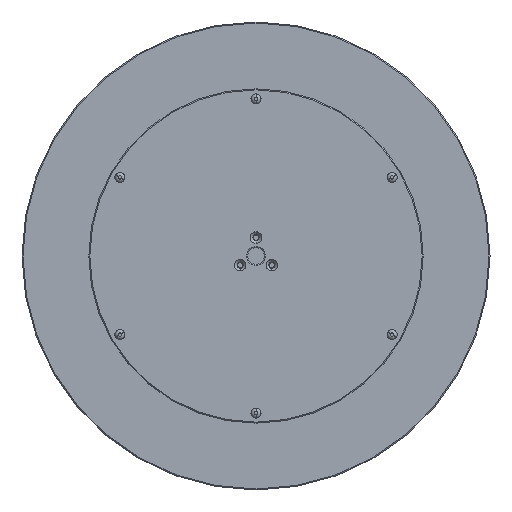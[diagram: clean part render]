
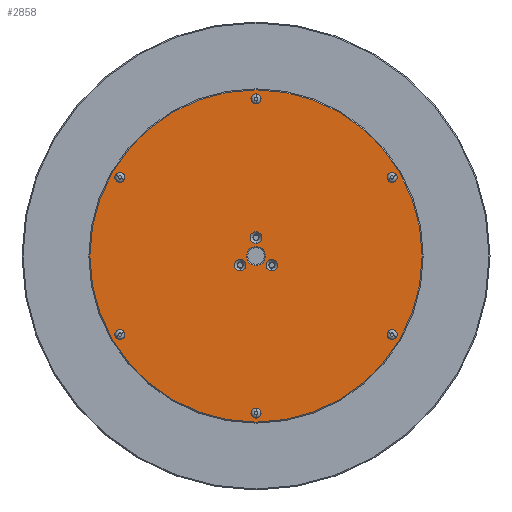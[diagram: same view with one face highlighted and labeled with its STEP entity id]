
A CAD part, front view. The second image highlights one B-rep face of the part: STEP entity #2858.
In plain terms, the highlighted planar face has unit normal (0, -1, 0).
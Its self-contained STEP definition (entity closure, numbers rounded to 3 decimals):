
#133 = CARTESIAN_POINT ( 'NONE',  ( 23.816, 0., -13.75 ) ) ;
#207 = VERTEX_POINT ( 'NONE', #4088 ) ;
#225 = CARTESIAN_POINT ( 'NONE',  ( 0., 0., 36.15 ) ) ;
#228 = AXIS2_PLACEMENT_3D ( 'NONE', #133, #488, #3286 ) ;
#395 = DIRECTION ( 'NONE',  ( 0., 0., -1. ) ) ;
#456 = CIRCLE ( 'NONE', #3987, 248.5 ) ;
#488 = DIRECTION ( 'NONE',  ( 0., -1., 0. ) ) ;
#650 = DIRECTION ( 'NONE',  ( 0., -1., 0. ) ) ;
#662 = DIRECTION ( 'NONE',  ( 0., -1., 0. ) ) ;
#695 = DIRECTION ( 'NONE',  ( 0., 0., 1. ) ) ;
#740 = CARTESIAN_POINT ( 'NONE',  ( -23.816, 0., -13.75 ) ) ;
#768 = CARTESIAN_POINT ( 'NONE',  ( -23.816, 0., -5.1 ) ) ;
#848 = VERTEX_POINT ( 'NONE', #225 ) ;
#902 = EDGE_LOOP ( 'NONE', ( #3353, #4275 ) ) ;
#927 = AXIS2_PLACEMENT_3D ( 'NONE', #4250, #2924, #695 ) ;
#949 = EDGE_CURVE ( 'NONE', #3401, #1594, #1953, .T. ) ;
#955 = EDGE_CURVE ( 'NONE', #207, #4053, #1814, .T. ) ;
#1060 = AXIS2_PLACEMENT_3D ( 'NONE', #4482, #2798, #2728 ) ;
#1089 = DIRECTION ( 'NONE',  ( 0., 0., 1. ) ) ;
#1116 = EDGE_LOOP ( 'NONE', ( #2542, #1323 ) ) ;
#1119 = CIRCLE ( 'NONE', #3183, 248.5 ) ;
#1144 = EDGE_CURVE ( 'NONE', #848, #1407, #1501, .T. ) ;
#1190 = PLANE ( 'NONE',  #2301 ) ;
#1214 = FACE_BOUND ( 'NONE', #902, .T. ) ;
#1219 = AXIS2_PLACEMENT_3D ( 'NONE', #740, #3998, #395 ) ;
#1260 = ORIENTED_EDGE ( 'NONE', *, *, #2724, .T. ) ;
#1323 = ORIENTED_EDGE ( 'NONE', *, *, #1144, .F. ) ;
#1347 = CIRCLE ( 'NONE', #1861, 8.65 ) ;
#1407 = VERTEX_POINT ( 'NONE', #2408 ) ;
#1475 = ORIENTED_EDGE ( 'NONE', *, *, #1883, .T. ) ;
#1501 = CIRCLE ( 'NONE', #1060, 8.65 ) ;
#1565 = CARTESIAN_POINT ( 'NONE',  ( 0., 0., -14. ) ) ;
#1594 = VERTEX_POINT ( 'NONE', #768 ) ;
#1600 = ORIENTED_EDGE ( 'NONE', *, *, #4076, .F. ) ;
#1625 = ORIENTED_EDGE ( 'NONE', *, *, #1832, .T. ) ;
#1707 = CARTESIAN_POINT ( 'NONE',  ( 0., 0., 248.5 ) ) ;
#1717 = CARTESIAN_POINT ( 'NONE',  ( 23.816, 0., -5.1 ) ) ;
#1731 = DIRECTION ( 'NONE',  ( 0., 0., -1. ) ) ;
#1814 = CIRCLE ( 'NONE', #927, 14. ) ;
#1822 = CARTESIAN_POINT ( 'NONE',  ( 0., 0., -248.5 ) ) ;
#1832 = EDGE_CURVE ( 'NONE', #4053, #207, #3569, .T. ) ;
#1861 = AXIS2_PLACEMENT_3D ( 'NONE', #2745, #650, #4158 ) ;
#1883 = EDGE_CURVE ( 'NONE', #4010, #3824, #1119, .T. ) ;
#1928 = DIRECTION ( 'NONE',  ( 0., -1., 0. ) ) ;
#1953 = CIRCLE ( 'NONE', #1219, 8.65 ) ;
#2030 = CARTESIAN_POINT ( 'NONE',  ( 0., 0., 0. ) ) ;
#2087 = CIRCLE ( 'NONE', #2306, 8.65 ) ;
#2100 = DIRECTION ( 'NONE',  ( 0., 0., 1. ) ) ;
#2153 = CIRCLE ( 'NONE', #228, 8.65 ) ;
#2156 = EDGE_LOOP ( 'NONE', ( #3545, #1600 ) ) ;
#2187 = DIRECTION ( 'NONE',  ( 0., 1., 0. ) ) ;
#2205 = DIRECTION ( 'NONE',  ( 0., 0., -1. ) ) ;
#2207 = VERTEX_POINT ( 'NONE', #2973 ) ;
#2301 = AXIS2_PLACEMENT_3D ( 'NONE', #2621, #2187, #4329 ) ;
#2306 = AXIS2_PLACEMENT_3D ( 'NONE', #2622, #1928, #2205 ) ;
#2354 = EDGE_CURVE ( 'NONE', #3527, #2207, #3850, .T. ) ;
#2408 = CARTESIAN_POINT ( 'NONE',  ( 0., 0., 18.85 ) ) ;
#2423 = CARTESIAN_POINT ( 'NONE',  ( 0., 0., 0. ) ) ;
#2465 = CARTESIAN_POINT ( 'NONE',  ( 23.816, 0., -13.75 ) ) ;
#2533 = FACE_OUTER_BOUND ( 'NONE', #3513, .T. ) ;
#2542 = ORIENTED_EDGE ( 'NONE', *, *, #3517, .F. ) ;
#2621 = CARTESIAN_POINT ( 'NONE',  ( 0., 0., 0. ) ) ;
#2622 = CARTESIAN_POINT ( 'NONE',  ( -23.816, 0., -13.75 ) ) ;
#2724 = EDGE_CURVE ( 'NONE', #3824, #4010, #456, .T. ) ;
#2728 = DIRECTION ( 'NONE',  ( 0., 0., -1. ) ) ;
#2745 = CARTESIAN_POINT ( 'NONE',  ( 0., 0., 27.5 ) ) ;
#2756 = AXIS2_PLACEMENT_3D ( 'NONE', #2423, #4225, #3441 ) ;
#2792 = CARTESIAN_POINT ( 'NONE',  ( -23.816, 0., -22.4 ) ) ;
#2798 = DIRECTION ( 'NONE',  ( 0., -1., 0. ) ) ;
#2858 = ADVANCED_FACE ( 'NONE', ( #2925, #2969, #4376, #1214, #2533 ), #1190, .F. ) ;
#2924 = DIRECTION ( 'NONE',  ( 0., 1., 0. ) ) ;
#2925 = FACE_BOUND ( 'NONE', #3766, .T. ) ;
#2960 = AXIS2_PLACEMENT_3D ( 'NONE', #2465, #3800, #1731 ) ;
#2969 = FACE_BOUND ( 'NONE', #1116, .T. ) ;
#2973 = CARTESIAN_POINT ( 'NONE',  ( 23.816, 0., -22.4 ) ) ;
#3093 = DIRECTION ( 'NONE',  ( 0., -1., 0. ) ) ;
#3183 = AXIS2_PLACEMENT_3D ( 'NONE', #2030, #3093, #2100 ) ;
#3225 = EDGE_CURVE ( 'NONE', #2207, #3527, #2153, .T. ) ;
#3286 = DIRECTION ( 'NONE',  ( 0., 0., -1. ) ) ;
#3353 = ORIENTED_EDGE ( 'NONE', *, *, #3225, .F. ) ;
#3401 = VERTEX_POINT ( 'NONE', #2792 ) ;
#3441 = DIRECTION ( 'NONE',  ( 0., 0., 1. ) ) ;
#3513 = EDGE_LOOP ( 'NONE', ( #1260, #1475 ) ) ;
#3517 = EDGE_CURVE ( 'NONE', #1407, #848, #1347, .T. ) ;
#3527 = VERTEX_POINT ( 'NONE', #1717 ) ;
#3545 = ORIENTED_EDGE ( 'NONE', *, *, #949, .F. ) ;
#3569 = CIRCLE ( 'NONE', #2756, 14. ) ;
#3766 = EDGE_LOOP ( 'NONE', ( #1625, #4114 ) ) ;
#3800 = DIRECTION ( 'NONE',  ( 0., -1., 0. ) ) ;
#3824 = VERTEX_POINT ( 'NONE', #1707 ) ;
#3850 = CIRCLE ( 'NONE', #2960, 8.65 ) ;
#3987 = AXIS2_PLACEMENT_3D ( 'NONE', #4246, #662, #1089 ) ;
#3998 = DIRECTION ( 'NONE',  ( 0., -1., 0. ) ) ;
#4010 = VERTEX_POINT ( 'NONE', #1822 ) ;
#4053 = VERTEX_POINT ( 'NONE', #1565 ) ;
#4076 = EDGE_CURVE ( 'NONE', #1594, #3401, #2087, .T. ) ;
#4088 = CARTESIAN_POINT ( 'NONE',  ( 0., 0., 14. ) ) ;
#4114 = ORIENTED_EDGE ( 'NONE', *, *, #955, .T. ) ;
#4158 = DIRECTION ( 'NONE',  ( 0., 0., -1. ) ) ;
#4225 = DIRECTION ( 'NONE',  ( 0., 1., 0. ) ) ;
#4246 = CARTESIAN_POINT ( 'NONE',  ( 0., 0., 0. ) ) ;
#4250 = CARTESIAN_POINT ( 'NONE',  ( 0., 0., 0. ) ) ;
#4275 = ORIENTED_EDGE ( 'NONE', *, *, #2354, .F. ) ;
#4329 = DIRECTION ( 'NONE',  ( 0., 0., 1. ) ) ;
#4376 = FACE_BOUND ( 'NONE', #2156, .T. ) ;
#4482 = CARTESIAN_POINT ( 'NONE',  ( 0., 0., 27.5 ) ) ;
